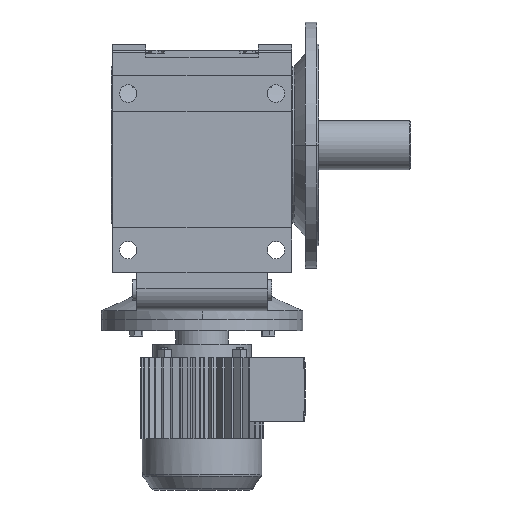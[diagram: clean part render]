
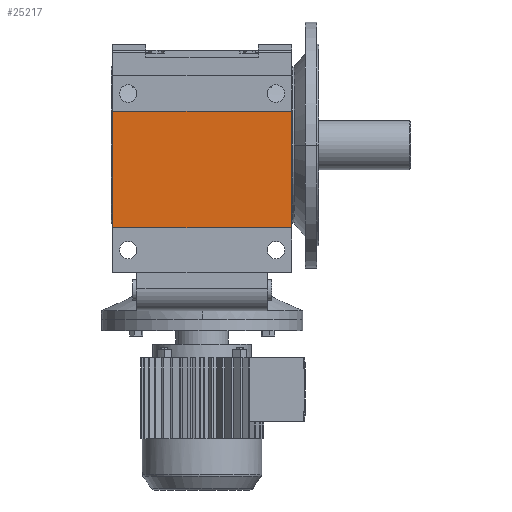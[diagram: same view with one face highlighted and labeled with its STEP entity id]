
A CAD part, front view. The second image highlights one B-rep face of the part: STEP entity #25217.
In plain terms, the highlighted planar face has unit normal (0, -1, 0).
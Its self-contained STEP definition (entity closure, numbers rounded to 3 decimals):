
#10107 = PLANE('',#10108);
#10108 = AXIS2_PLACEMENT_3D('',#10109,#10110,#10111);
#10109 = CARTESIAN_POINT('',(200.,-312.875,176.));
#10110 = DIRECTION('',(1.,0.,0.));
#10111 = DIRECTION('',(0.,0.,-1.));
#11314 = PLANE('',#11315);
#11315 = AXIS2_PLACEMENT_3D('',#11316,#11317,#11318);
#11316 = CARTESIAN_POINT('',(-200.,-312.875,176.));
#11317 = DIRECTION('',(1.,0.,0.));
#11318 = DIRECTION('',(0.,0.,-1.));
#16623 = VERTEX_POINT('',#16624);
#16624 = CARTESIAN_POINT('',(200.,-361.875,75.));
#16638 = PLANE('',#16639);
#16639 = AXIS2_PLACEMENT_3D('',#16640,#16641,#16642);
#16640 = CARTESIAN_POINT('',(200.,-361.875,75.));
#16641 = DIRECTION('',(0.,0.,1.));
#16642 = DIRECTION('',(1.,0.,0.));
#16650 = EDGE_CURVE('',#16623,#16651,#16653,.T.);
#16651 = VERTEX_POINT('',#16652);
#16652 = CARTESIAN_POINT('',(200.,-361.875,-185.));
#16653 = SURFACE_CURVE('',#16654,(#16658,#16665),.PCURVE_S1.);
#16654 = LINE('',#16655,#16656);
#16655 = CARTESIAN_POINT('',(200.,-361.875,75.));
#16656 = VECTOR('',#16657,1.);
#16657 = DIRECTION('',(0.,0.,-1.));
#16658 = PCURVE('',#10107,#16659);
#16659 = DEFINITIONAL_REPRESENTATION('',(#16660),#16664);
#16660 = LINE('',#16661,#16662);
#16661 = CARTESIAN_POINT('',(101.,-49.));
#16662 = VECTOR('',#16663,1.);
#16663 = DIRECTION('',(1.,0.));
#16664 = ( GEOMETRIC_REPRESENTATION_CONTEXT(2) 
PARAMETRIC_REPRESENTATION_CONTEXT() REPRESENTATION_CONTEXT('2D SPACE',''
  ) );
#16665 = PCURVE('',#16666,#16671);
#16666 = PLANE('',#16667);
#16667 = AXIS2_PLACEMENT_3D('',#16668,#16669,#16670);
#16668 = CARTESIAN_POINT('',(-145.5,-361.875,180.));
#16669 = DIRECTION('',(0.,-1.,0.));
#16670 = DIRECTION('',(0.,0.,-1.));
#16671 = DEFINITIONAL_REPRESENTATION('',(#16672),#16676);
#16672 = LINE('',#16673,#16674);
#16673 = CARTESIAN_POINT('',(105.,345.5));
#16674 = VECTOR('',#16675,1.);
#16675 = DIRECTION('',(1.,0.));
#16676 = ( GEOMETRIC_REPRESENTATION_CONTEXT(2) 
PARAMETRIC_REPRESENTATION_CONTEXT() REPRESENTATION_CONTEXT('2D SPACE',''
  ) );
#16694 = PLANE('',#16695);
#16695 = AXIS2_PLACEMENT_3D('',#16696,#16697,#16698);
#16696 = CARTESIAN_POINT('',(200.,-361.875,-185.));
#16697 = DIRECTION('',(0.,0.,-1.));
#16698 = DIRECTION('',(-1.,0.,0.));
#17883 = VERTEX_POINT('',#17884);
#17884 = CARTESIAN_POINT('',(-200.,-361.875,-185.));
#17905 = EDGE_CURVE('',#17906,#17883,#17908,.T.);
#17906 = VERTEX_POINT('',#17907);
#17907 = CARTESIAN_POINT('',(-200.,-361.875,75.));
#17908 = SURFACE_CURVE('',#17909,(#17913,#17920),.PCURVE_S1.);
#17909 = LINE('',#17910,#17911);
#17910 = CARTESIAN_POINT('',(-200.,-361.875,75.));
#17911 = VECTOR('',#17912,1.);
#17912 = DIRECTION('',(0.,0.,-1.));
#17913 = PCURVE('',#11314,#17914);
#17914 = DEFINITIONAL_REPRESENTATION('',(#17915),#17919);
#17915 = LINE('',#17916,#17917);
#17916 = CARTESIAN_POINT('',(101.,-49.));
#17917 = VECTOR('',#17918,1.);
#17918 = DIRECTION('',(1.,0.));
#17919 = ( GEOMETRIC_REPRESENTATION_CONTEXT(2) 
PARAMETRIC_REPRESENTATION_CONTEXT() REPRESENTATION_CONTEXT('2D SPACE',''
  ) );
#17920 = PCURVE('',#16666,#17921);
#17921 = DEFINITIONAL_REPRESENTATION('',(#17922),#17926);
#17922 = LINE('',#17923,#17924);
#17923 = CARTESIAN_POINT('',(105.,-54.5));
#17924 = VECTOR('',#17925,1.);
#17925 = DIRECTION('',(1.,0.));
#17926 = ( GEOMETRIC_REPRESENTATION_CONTEXT(2) 
PARAMETRIC_REPRESENTATION_CONTEXT() REPRESENTATION_CONTEXT('2D SPACE',''
  ) );
#24943 = EDGE_CURVE('',#16623,#17906,#24944,.T.);
#24944 = SURFACE_CURVE('',#24945,(#24949,#24956),.PCURVE_S1.);
#24945 = LINE('',#24946,#24947);
#24946 = CARTESIAN_POINT('',(200.,-361.875,75.));
#24947 = VECTOR('',#24948,1.);
#24948 = DIRECTION('',(-1.,0.,0.));
#24949 = PCURVE('',#16638,#24950);
#24950 = DEFINITIONAL_REPRESENTATION('',(#24951),#24955);
#24951 = LINE('',#24952,#24953);
#24952 = CARTESIAN_POINT('',(0.,0.));
#24953 = VECTOR('',#24954,1.);
#24954 = DIRECTION('',(-1.,0.));
#24955 = ( GEOMETRIC_REPRESENTATION_CONTEXT(2) 
PARAMETRIC_REPRESENTATION_CONTEXT() REPRESENTATION_CONTEXT('2D SPACE',''
  ) );
#24956 = PCURVE('',#16666,#24957);
#24957 = DEFINITIONAL_REPRESENTATION('',(#24958),#24962);
#24958 = LINE('',#24959,#24960);
#24959 = CARTESIAN_POINT('',(105.,345.5));
#24960 = VECTOR('',#24961,1.);
#24961 = DIRECTION('',(0.,-1.));
#24962 = ( GEOMETRIC_REPRESENTATION_CONTEXT(2) 
PARAMETRIC_REPRESENTATION_CONTEXT() REPRESENTATION_CONTEXT('2D SPACE',''
  ) );
#25043 = EDGE_CURVE('',#16651,#17883,#25044,.T.);
#25044 = SURFACE_CURVE('',#25045,(#25049,#25056),.PCURVE_S1.);
#25045 = LINE('',#25046,#25047);
#25046 = CARTESIAN_POINT('',(200.,-361.875,-185.));
#25047 = VECTOR('',#25048,1.);
#25048 = DIRECTION('',(-1.,0.,0.));
#25049 = PCURVE('',#16694,#25050);
#25050 = DEFINITIONAL_REPRESENTATION('',(#25051),#25055);
#25051 = LINE('',#25052,#25053);
#25052 = CARTESIAN_POINT('',(0.,0.));
#25053 = VECTOR('',#25054,1.);
#25054 = DIRECTION('',(1.,0.));
#25055 = ( GEOMETRIC_REPRESENTATION_CONTEXT(2) 
PARAMETRIC_REPRESENTATION_CONTEXT() REPRESENTATION_CONTEXT('2D SPACE',''
  ) );
#25056 = PCURVE('',#16666,#25057);
#25057 = DEFINITIONAL_REPRESENTATION('',(#25058),#25062);
#25058 = LINE('',#25059,#25060);
#25059 = CARTESIAN_POINT('',(365.,345.5));
#25060 = VECTOR('',#25061,1.);
#25061 = DIRECTION('',(0.,-1.));
#25062 = ( GEOMETRIC_REPRESENTATION_CONTEXT(2) 
PARAMETRIC_REPRESENTATION_CONTEXT() REPRESENTATION_CONTEXT('2D SPACE',''
  ) );
#25217 = ADVANCED_FACE('',(#25218),#16666,.T.);
#25218 = FACE_BOUND('',#25219,.T.);
#25219 = EDGE_LOOP('',(#25220,#25221,#25222,#25223));
#25220 = ORIENTED_EDGE('',*,*,#17905,.T.);
#25221 = ORIENTED_EDGE('',*,*,#25043,.F.);
#25222 = ORIENTED_EDGE('',*,*,#16650,.F.);
#25223 = ORIENTED_EDGE('',*,*,#24943,.T.);
